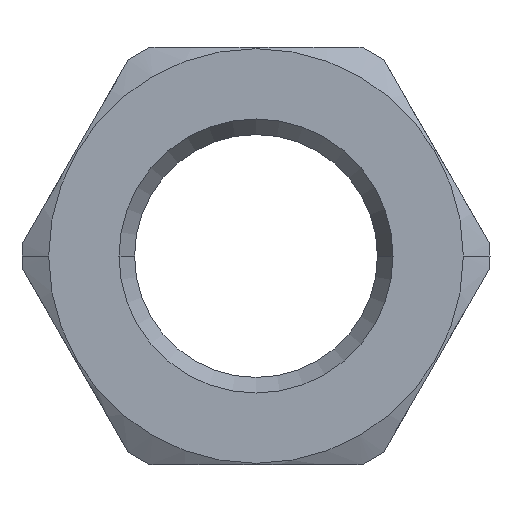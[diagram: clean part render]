
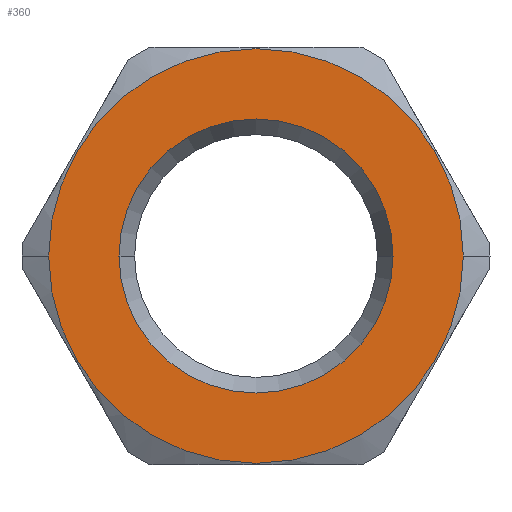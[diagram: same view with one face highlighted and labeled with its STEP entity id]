
A CAD part, front view. The second image highlights one B-rep face of the part: STEP entity #360.
In plain terms, the highlighted planar face has unit normal (0, -1, 0).
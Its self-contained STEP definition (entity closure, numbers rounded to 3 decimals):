
#10=CARTESIAN_POINT('',(392.514,24.838,0.));
#20=DIRECTION('',(-0.,-1.,-0.));
#30=DIRECTION('',(-1.,0.,0.));
#40=AXIS2_PLACEMENT_3D('',#10,#20,#30);
#50=PLANE('',#40);
#60=CARTESIAN_POINT('',(384.564,24.838,0.));
#70=DIRECTION('',(0.,-1.,0.));
#80=DIRECTION('',(-1.,0.,0.));
#90=AXIS2_PLACEMENT_3D('',#60,#70,#80);
#100=CIRCLE('',#90,10.516);
#110=CARTESIAN_POINT('',(374.048,24.838,0.));
#120=VERTEX_POINT('',#110);
#130=CARTESIAN_POINT('',(395.079,24.838,
0.));
#140=VERTEX_POINT('',#130);
#150=EDGE_CURVE('',#120,#140,#100,.T.);
#160=ORIENTED_EDGE('',*,*,#150,.F.);
#170=EDGE_CURVE('',#140,#120,#100,.T.);
#180=ORIENTED_EDGE('',*,*,#170,.F.);
#190=EDGE_LOOP('',(#180,#160));
#200=FACE_BOUND('',#190,.T.);
#210=CARTESIAN_POINT('',(384.564,24.838,0.));
#220=DIRECTION('',(0.,-1.,0.));
#230=DIRECTION('',(1.,0.,0.));
#240=AXIS2_PLACEMENT_3D('',#210,#220,#230);
#250=CIRCLE('',#240,15.9);
#260=CARTESIAN_POINT('',(400.464,24.838,0.));
#270=VERTEX_POINT('',#260);
#280=CARTESIAN_POINT('',(368.664,24.838,
0.));
#290=VERTEX_POINT('',#280);
#300=EDGE_CURVE('',#270,#290,#250,.T.);
#310=ORIENTED_EDGE('',*,*,#300,.T.);
#320=EDGE_CURVE('',#290,#270,#250,.T.);
#330=ORIENTED_EDGE('',*,*,#320,.T.);
#340=EDGE_LOOP('',(#330,#310));
#350=FACE_OUTER_BOUND('',#340,.T.);
#360=ADVANCED_FACE('',(#200,#350),#50,.T.);
